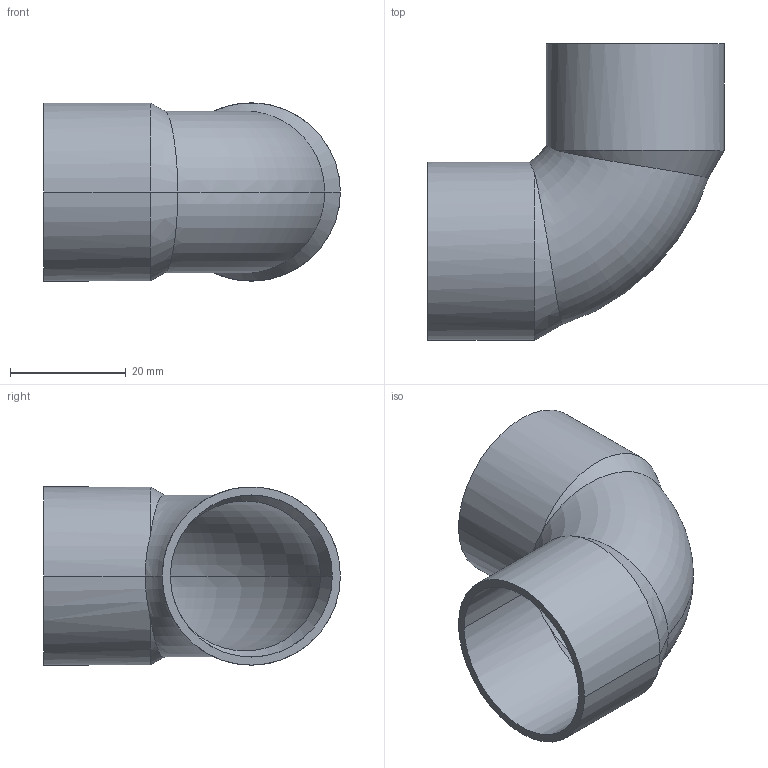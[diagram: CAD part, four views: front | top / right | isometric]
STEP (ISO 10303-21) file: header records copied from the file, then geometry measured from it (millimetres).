
FILE_DESCRIPTION((''),'2;1');
FILE_NAME('G:\SANHA-TERNAT\Technik\Deckel\UUU\Producttek\1509028\1509028(0).stp','2007-07-24T10:34:57',('vdvijverd'),(''),'Autodesk Inventor 8','Autodesk Inventor 8','');
FILE_SCHEMA(('AUTOMOTIVE_DESIGN { 1 0 10303 214 1 1 1 1 }'));
Length unit declared in the file: millimetre
Products named in the file (1): 1509052(1)
Bounding box: 51.3 x 51.3 x 30.8 mm (x, y, z)
Volume: 7125.2 mm3; surface area: 11418.5 mm2
Topology: 1 solids, 1 shells, 22 faces, 53 edges, 33 vertices
Faces by surface type: bspline 9, torus 4, cone 4, cylinder 4, plane 1
Entity records: 917 total; most frequent: CARTESIAN_POINT 432, ORIENTED_EDGE 106, DIRECTION 82, EDGE_CURVE 53, AXIS2_PLACEMENT_3D 35, VERTEX_POINT 33, EDGE_LOOP 24, FACE_OUTER_BOUND 22
